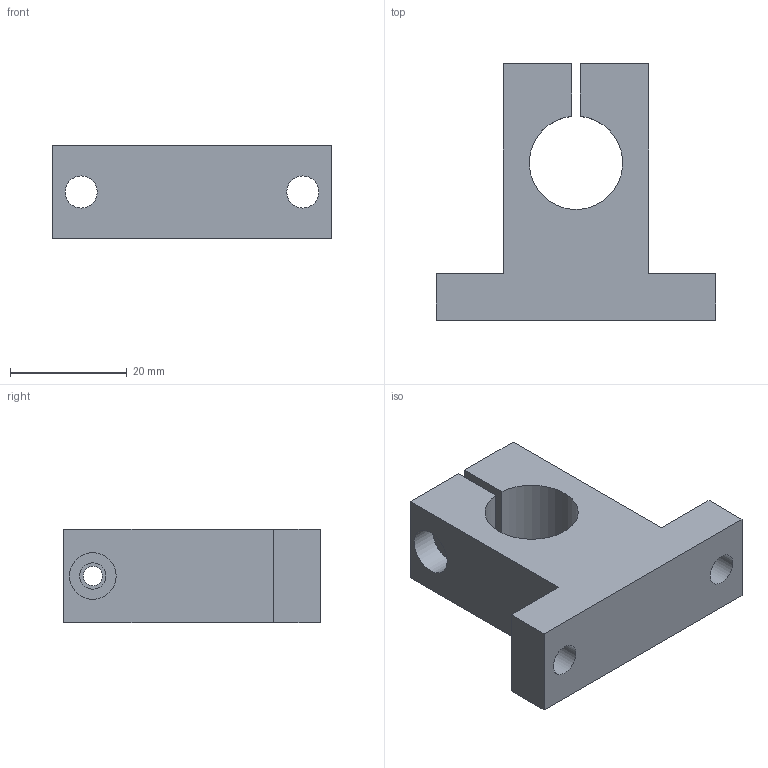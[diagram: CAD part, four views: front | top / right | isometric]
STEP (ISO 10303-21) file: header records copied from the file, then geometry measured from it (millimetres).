
FILE_DESCRIPTION(/* description */ ('Unknown'),/* implementation_level */ '2;1');
FILE_NAME(/* name */ 'SK16',/* time_stamp */ '2025-02-03T17:59:17+08:00',/* author */ ('Unknown'),/* organization */ ('Unknown'),/* preprocessor_version */ 'ST-DEVELOPER v18.102',/* originating_system */ 'Solid Edge',/* authorisation */ 'Unknown');
FILE_SCHEMA (('AUTOMOTIVE_DESIGN {1 0 10303 214 3 1 1}'));
Length unit declared in the file: millimetre
Products named in the file (1): SK16
Bounding box: 48 x 44 x 16 mm (x, y, z)
Volume: 16288.6 mm3; surface area: 6598.1 mm2
Topology: 1 solids, 1 shells, 20 faces, 51 edges, 34 vertices
Faces by surface type: plane 14, cylinder 6
Full cylindrical faces by diameter (mm): 3.3 x1, 4.5 x1, 5.5 x2, 8 x1
Entity records: 628 total; most frequent: CARTESIAN_POINT 101, DIRECTION 100, ORIENTED_EDGE 92, EDGE_CURVE 46, VERTEX_POINT 34, LINE 34, VECTOR 34, EDGE_LOOP 34
